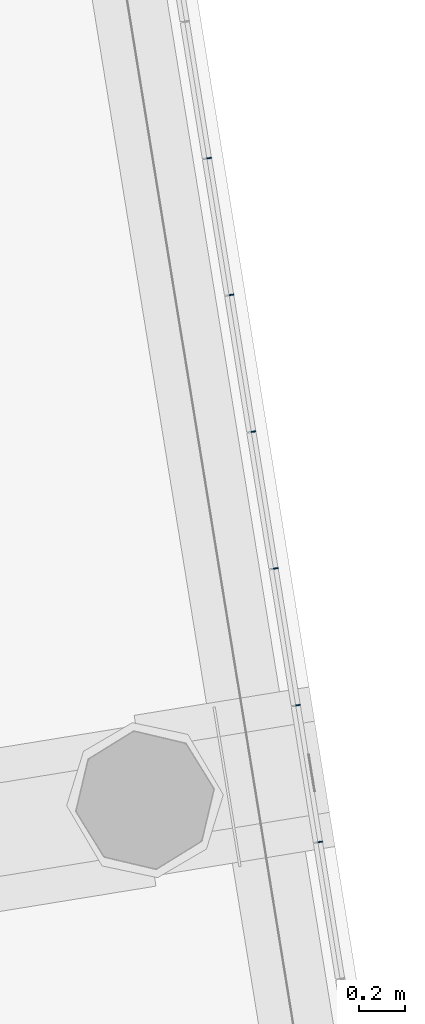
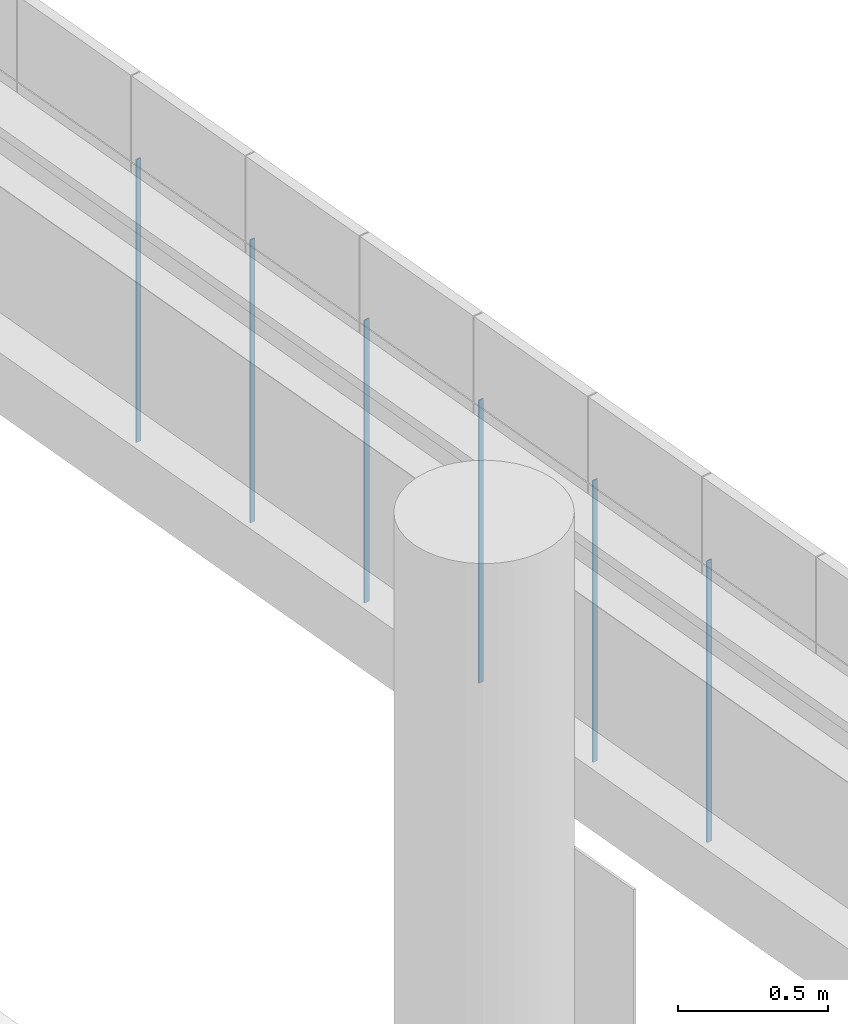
# One storey, part 7 of 38: 6 members, 1 element without a shape of its own.
"""IFC2X3 building model written with IfcOpenShell, lengths in millimetres."""

from ifc_helpers import new_model, entity, si_unit, converted_unit, derived_unit, direction, frame, origin, origin_with_axes, origin_2d_with_axis, place, context, subcontext, project, spatial, rectangle, extrude, source, transform, mapped, material, type_object, element, aggregate, save


model = new_model("IFC2X3")

# Units and contexts
model_context = context("Model", 3, precision=0.01, world=origin(), true_north=direction((6.12323399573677e-17, 1.0)))
plan_context = context("Plan", 3, precision=1e-05, world=origin_with_axes())
body_context = subcontext(model_context, "Body", "Model", "MODEL_VIEW")
ifc_project = project(units=[converted_unit("PLANEANGLEUNIT", "DEGREE", entity("IfcPositiveLengthMeasure", 0.0174532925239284), si_unit("PLANEANGLEUNIT", "RADIAN"), dimensions=[0, 0, 0, 0, 0, 0, 0]), si_unit("AREAUNIT", "SQUARE_METRE"), si_unit("LENGTHUNIT", "METRE", prefix="MILLI"), si_unit("MASSUNIT", "GRAM", prefix="KILO"), si_unit("POWERUNIT", "WATT"), si_unit("PRESSUREUNIT", "PASCAL", prefix="KILO"), si_unit("FORCEUNIT", "NEWTON", prefix="KILO"), si_unit("ELECTRICVOLTAGEUNIT", "VOLT"), si_unit("ELECTRICCURRENTUNIT", "AMPERE"), si_unit("THERMODYNAMICTEMPERATUREUNIT", "DEGREE_CELSIUS"), si_unit("TIMEUNIT", "SECOND"), si_unit("VOLUMEUNIT", "CUBIC_METRE"), derived_unit("LINEARVELOCITYUNIT", [(si_unit("LENGTHUNIT", "METRE"), 1), (si_unit("TIMEUNIT", "SECOND"), -1)]), derived_unit("VOLUMETRICFLOWRATEUNIT", [(si_unit("VOLUMEUNIT", "CUBIC_METRE"), 1), (si_unit("TIMEUNIT", "SECOND"), -1)]), derived_unit("THERMALTRANSMITTANCEUNIT", [(si_unit("POWERUNIT", "WATT"), 1), (si_unit("THERMODYNAMICTEMPERATUREUNIT", "KELVIN"), -1), (si_unit("AREAUNIT", "SQUARE_METRE"), -1)]), derived_unit("SOUNDPRESSUREUNIT", [(si_unit("PRESSUREUNIT", "PASCAL"), 1)])], contexts=[model_context, plan_context])

# Site, building, storey
site_placement = place(None, frame((-0.00071070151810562, 0.00438415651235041, 0.0), z_axis=(0.0, 0.0, 1.0), x_axis=(-0.160236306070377, 0.987078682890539, 0.0)))
site = spatial("IfcSite", under=ifc_project, at=site_placement, Name="Default", CompositionType="ELEMENT")
building_placement = place(site_placement, origin_with_axes())
building = spatial("IfcBuilding", under=site, at=building_placement, Name="TOO", CompositionType="ELEMENT")
storey_placement = place(building_placement, frame((0.0, 0.0, 50999.9999999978), z_axis=(0.0, 0.0, 1.0), x_axis=(1.0, 0.0, 0.0)))
storey = spatial("IfcBuildingStorey", under=building, at=storey_placement, Name="Nivå D-H01", CompositionType="ELEMENT", Elevation=50999.9999999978)

# Curtain wall, members
curtain_wall_type = type_object("IfcCurtainWallType", Name="Curtain Wall:Curtain Wall Standard (Bruk kun denne)", PredefinedType="NOTDEFINED")
curtain_wall_placement = place(storey_placement, frame((0.0, 0.0, -50999.9999999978), z_axis=(0.0, 0.0, 1.0), x_axis=(1.0, 0.0, 0.0)))
curtain_wall = element("IfcCurtainWall", 1, at=curtain_wall_placement, inside=storey, type_object=curtain_wall_type, Name="Curtain Wall:Curtain Wall Standard (Bruk kun denne)", ObjectType="Curtain Wall:Curtain Wall Standard (Bruk kun denne)")
ifc_material = material(Name="Rubber")
member_type_1 = type_object("IfcMemberType", Name="Rectangular Mullion:A246 - Fuge 5mm L09", PredefinedType="MULLION", material=ifc_material)
shared_shape_1 = source(origin(), body_context, "Body", "SweptSolid", [
    extrude(rectangle(XDim=5.0, YDim=20.0, at=origin_2d_with_axis()), frame((0.0, 10.0, -1147.50000000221), z_axis=(0.0, 0.0, 1.0), x_axis=(-1.0, 0.0, 0.0)), (0.0, 0.0, 1.0), 1147.50000000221),
])
member_1_placement = place(curtain_wall_placement, frame((773577.619644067, -604232.480498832, 53702.4999999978), z_axis=(0.0, 0.0, -1.0), x_axis=(-1.0, 0.0, 0.0)))
member_1 = element("IfcMember", 2, at=member_1_placement, type_object=member_type_1, material=ifc_material, Name="Rectangular Mullion:A246 - Fuge 5mm L09", ObjectType="Rectangular Mullion:A246 - Fuge 5mm L09", context=body_context, shape_type="MappedRepresentation", body=[
    mapped(shared_shape_1, transform((0.0, 0.0, 0.0), scale=1.0)),
])
member_2_placement = place(curtain_wall_placement, frame((772977.619644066, -604232.480498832, 53702.4999999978), z_axis=(0.0, 0.0, -1.0), x_axis=(-1.0, 0.0, 0.0)))
member_2 = element("IfcMember", 3, at=member_2_placement, type_object=member_type_1, material=ifc_material, Name="Rectangular Mullion:A246 - Fuge 5mm L09", ObjectType="Rectangular Mullion:A246 - Fuge 5mm L09", context=body_context, shape_type="MappedRepresentation", body=[
    mapped(shared_shape_1, transform((0.0, 0.0, 0.0), scale=1.0)),
])
member_3_placement = place(curtain_wall_placement, frame((771777.619644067, -604232.480498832, 53702.4999999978), z_axis=(0.0, 0.0, -1.0), x_axis=(-1.0, 0.0, 0.0)))
member_3 = element("IfcMember", 4, at=member_3_placement, type_object=member_type_1, material=ifc_material, Name="Rectangular Mullion:A246 - Fuge 5mm L09", ObjectType="Rectangular Mullion:A246 - Fuge 5mm L09", context=body_context, shape_type="MappedRepresentation", body=[
    mapped(shared_shape_1, transform((0.0, 0.0, 0.0), scale=1.0)),
])
member_4_placement = place(curtain_wall_placement, frame((772377.619644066, -604232.480498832, 53702.4999999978), z_axis=(0.0, 0.0, -1.0), x_axis=(-1.0, 0.0, 0.0)))
member_4 = element("IfcMember", 5, at=member_4_placement, type_object=member_type_1, material=ifc_material, Name="Rectangular Mullion:A246 - Fuge 5mm L09", ObjectType="Rectangular Mullion:A246 - Fuge 5mm L09", context=body_context, shape_type="MappedRepresentation", body=[
    mapped(shared_shape_1, transform((0.0, 0.0, 0.0), scale=1.0)),
])
member_type_2 = type_object("IfcMemberType", Name="Rectangular Mullion:A246 - Fuge 5mm L09", PredefinedType="MULLION", material=ifc_material)
shared_shape_2 = source(origin(), body_context, "Body", "SweptSolid", [
    extrude(rectangle(XDim=5.0, YDim=20.0, at=origin_2d_with_axis()), frame((0.0, 10.0, -1142.50000000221), z_axis=(0.0, 0.0, 1.0), x_axis=(-1.0, 0.0, 0.0)), (0.0, 0.0, 1.0), 1142.50000000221),
])
member_5_placement = place(curtain_wall_placement, frame((771177.619644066, -604232.480498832, 53707.4999999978), z_axis=(0.0, 0.0, -1.0), x_axis=(-1.0, 0.0, 0.0)))
member_5 = element("IfcMember", 6, at=member_5_placement, type_object=member_type_2, material=ifc_material, Name="Rectangular Mullion:A246 - Fuge 5mm L09", ObjectType="Rectangular Mullion:A246 - Fuge 5mm L09", context=body_context, shape_type="MappedRepresentation", body=[
    mapped(shared_shape_2, transform((0.0, 0.0, 0.0), scale=1.0)),
])
member_6_placement = place(curtain_wall_placement, frame((770577.619644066, -604232.480498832, 53707.4999999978), z_axis=(0.0, 0.0, -1.0), x_axis=(-1.0, 0.0, 0.0)))
member_6 = element("IfcMember", 7, at=member_6_placement, type_object=member_type_2, material=ifc_material, Name="Rectangular Mullion:A246 - Fuge 5mm L09", ObjectType="Rectangular Mullion:A246 - Fuge 5mm L09", context=body_context, shape_type="MappedRepresentation", body=[
    mapped(shared_shape_2, transform((0.0, 0.0, 0.0), scale=1.0)),
])
aggregate(curtain_wall, [member_1, member_2, member_3, member_5, member_4, member_6])

save(model, "model.ifc")
